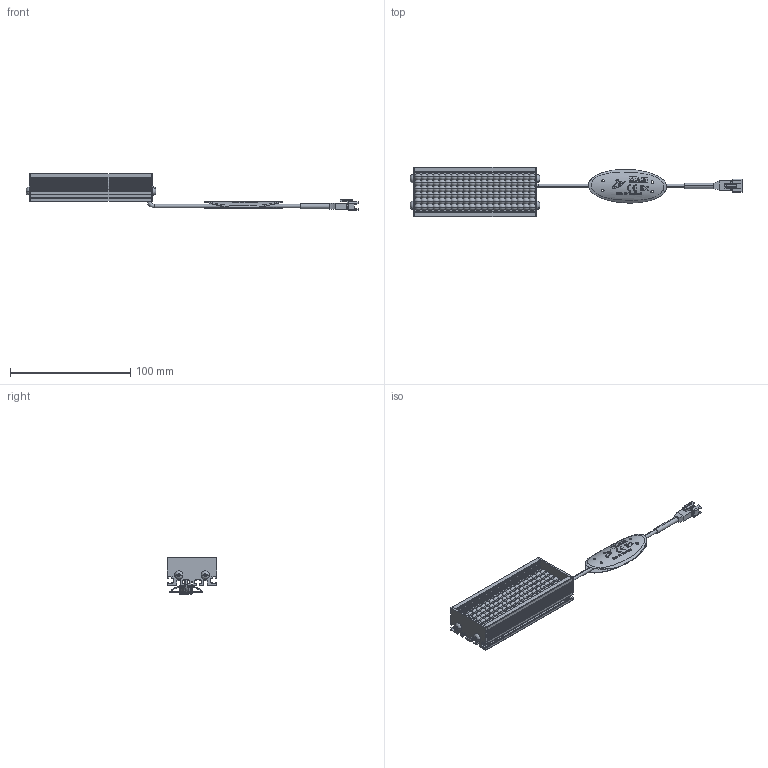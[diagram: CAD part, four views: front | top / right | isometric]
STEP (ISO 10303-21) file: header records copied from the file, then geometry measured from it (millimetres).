
FILE_DESCRIPTION(('STEP AP214'),'1');
FILE_NAME('VBA-10030_DRAWING_3D.step','2023-09-14T01:05:56',(' '),(' '),'Spatial InterOp 3D',' ',' ');
FILE_SCHEMA(('AUTOMOTIVE_DESIGN { 1 0 10303 214 1 1 1 1 }'));
Length unit declared in the file: millimetre
Products named in the file (7): BASE; SIDE PLATE; LED LENS; MXB8146; 3P; CABEL TAG (VS).stp
Assembly tree (11 placements, depth 2):
  (unnamed)
    BASE
    SIDE PLATE  x2
    LED LENS  x2
    MXB8146  x4
    3P
    CABEL TAG (VS).stp
Bounding box: 276 x 41 x 30.5 mm (x, y, z)
Volume: 49165.8 mm3; surface area: 51714.3 mm2
Topology: 12 solids, 12 shells, 1392 faces, 4301 edges, 2989 vertices
Faces by surface type: plane 664, cylinder 468, sphere 240, torus 14, bspline 6
Entity records: 45869 total; most frequent: CARTESIAN_POINT 9979, ORIENTED_EDGE 6106, DIRECTION 5815, EDGE_CURVE 3053, VERTEX_POINT 2155, AXIS2_PLACEMENT_3D 2145, LINE 1525, VECTOR 1525
